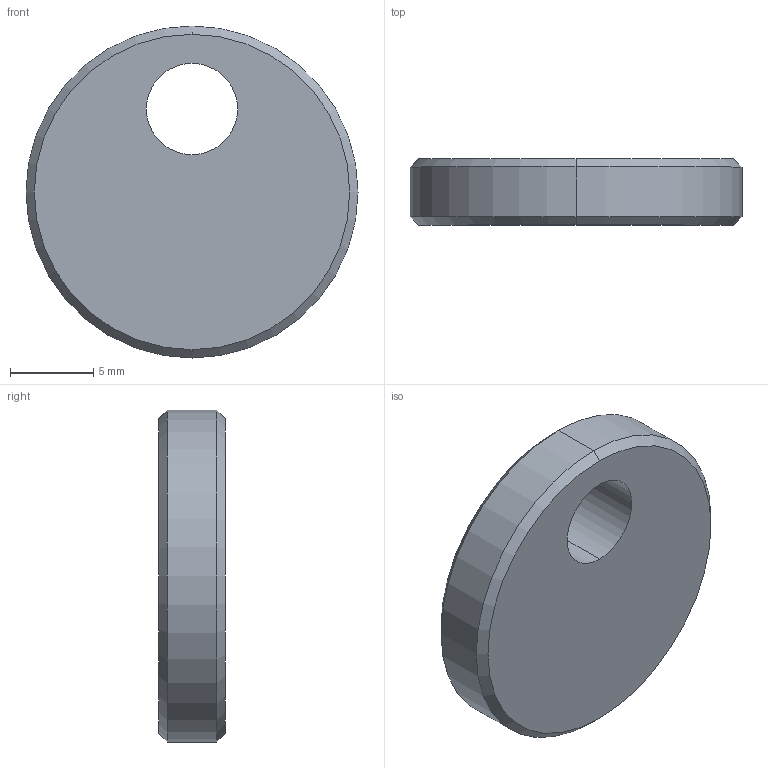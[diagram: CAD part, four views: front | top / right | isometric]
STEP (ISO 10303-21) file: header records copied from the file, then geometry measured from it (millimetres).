
FILE_DESCRIPTION (( 'STEP AP203' ), '1' );
FILE_NAME ('VA00700.STEP', '2016-06-17T08:21:59', ( '' ), ( '' ), 'SwSTEP 2.0', 'SolidWorks 2016', '' );
FILE_SCHEMA (( 'CONFIG_CONTROL_DESIGN' ));
Length unit declared in the file: millimetre
Products named in the file (1): VA00700
Bounding box: 20 x 4 x 20 mm (x, y, z)
Volume: 1146.2 mm3; surface area: 863.8 mm2
Topology: 1 solids, 1 shells, 10 faces, 20 edges, 12 vertices
Faces by surface type: cone 4, cylinder 4, plane 2
Entity records: 345 total; most frequent: DIRECTION 54, CARTESIAN_POINT 43, ORIENTED_EDGE 40, AXIS2_PLACEMENT_3D 23, EDGE_CURVE 20, CIRCLE 12, EDGE_LOOP 12, VERTEX_POINT 12
